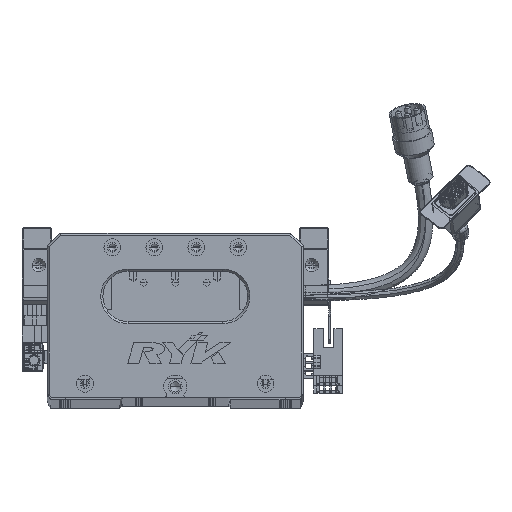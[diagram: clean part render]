
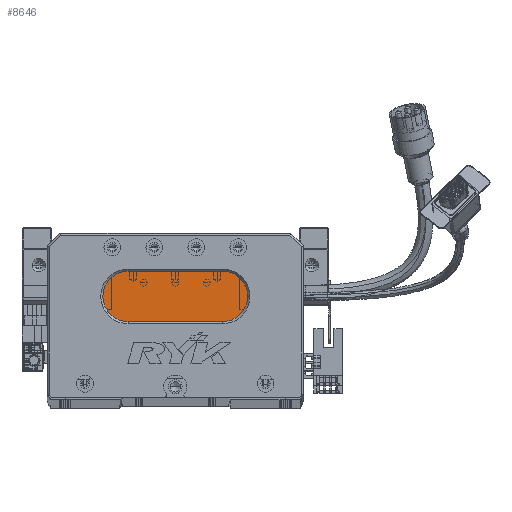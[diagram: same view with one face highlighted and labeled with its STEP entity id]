
A CAD part, top view. The second image highlights one B-rep face of the part: STEP entity #8646.
In plain terms, the highlighted planar face has unit normal (0, 0, 1) as drawn and (0, 0, -1) by its records, which use the part's own axes.
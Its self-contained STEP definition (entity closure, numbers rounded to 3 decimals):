
#1978 = LINE ( 'NONE', #117960, #13726 ) ;
#2838 = DIRECTION ( 'NONE',  ( -1., 0., 0. ) ) ;
#2872 = LINE ( 'NONE', #22475, #11663 ) ;
#5136 = CARTESIAN_POINT ( 'NONE',  ( 83.5, 48., 13. ) ) ;
#6823 = EDGE_CURVE ( 'NONE', #60017, #57173, #21220, .T. ) ;
#7455 = EDGE_CURVE ( 'NONE', #19642, #61894, #1978, .T. ) ;
#7663 = DIRECTION ( 'NONE',  ( -1., 0., 0. ) ) ;
#8646 = ADVANCED_FACE ( 'NONE', ( #57492 ), #83197, .T. ) ;
#11663 = VECTOR ( 'NONE', #13882, 1000. ) ;
#12112 = ORIENTED_EDGE ( 'NONE', *, *, #7455, .T. ) ;
#13726 = VECTOR ( 'NONE', #100706, 1000. ) ;
#13882 = DIRECTION ( 'NONE',  ( -1., 0., 0. ) ) ;
#15358 = AXIS2_PLACEMENT_3D ( 'NONE', #17716, #81586, #102028 ) ;
#15452 = AXIS2_PLACEMENT_3D ( 'NONE', #64909, #102188, #7663 ) ;
#17716 = CARTESIAN_POINT ( 'NONE',  ( 83.5, 48., 13. ) ) ;
#19642 = VERTEX_POINT ( 'NONE', #50328 ) ;
#21220 = CIRCLE ( 'NONE', #74859, 12. ) ;
#22475 = CARTESIAN_POINT ( 'NONE',  ( 83.5, 36., 13. ) ) ;
#30178 = EDGE_CURVE ( 'NONE', #32912, #60017, #2872, .T. ) ;
#32912 = VERTEX_POINT ( 'NONE', #68602 ) ;
#37847 = AXIS2_PLACEMENT_3D ( 'NONE', #5136, #117726, #88237 ) ;
#49861 = DIRECTION ( 'NONE',  ( 0., 0., -1. ) ) ;
#50271 = CARTESIAN_POINT ( 'NONE',  ( 38.5, 48., 13. ) ) ;
#50328 = CARTESIAN_POINT ( 'NONE',  ( 38.5, 60., 13. ) ) ;
#52321 = ORIENTED_EDGE ( 'NONE', *, *, #6823, .T. ) ;
#54408 = ORIENTED_EDGE ( 'NONE', *, *, #30178, .T. ) ;
#57173 = VERTEX_POINT ( 'NONE', #93125 ) ;
#57492 = FACE_OUTER_BOUND ( 'NONE', #59883, .T. ) ;
#59883 = EDGE_LOOP ( 'NONE', ( #115453, #54408, #52321, #71445, #12112 ) ) ;
#60017 = VERTEX_POINT ( 'NONE', #77869 ) ;
#60108 = CIRCLE ( 'NONE', #37847, 12. ) ;
#61894 = VERTEX_POINT ( 'NONE', #69794 ) ;
#64909 = CARTESIAN_POINT ( 'NONE',  ( 38.5, 48., 13. ) ) ;
#66460 = CIRCLE ( 'NONE', #15452, 12. ) ;
#68602 = CARTESIAN_POINT ( 'NONE',  ( 83.5, 36., 13. ) ) ;
#69794 = CARTESIAN_POINT ( 'NONE',  ( 83.5, 60., 13. ) ) ;
#71445 = ORIENTED_EDGE ( 'NONE', *, *, #94806, .T. ) ;
#74859 = AXIS2_PLACEMENT_3D ( 'NONE', #50271, #49861, #2838 ) ;
#77869 = CARTESIAN_POINT ( 'NONE',  ( 38.5, 36., 13. ) ) ;
#81586 = DIRECTION ( 'NONE',  ( 0., 0., -1. ) ) ;
#83197 = PLANE ( 'NONE',  #15358 ) ;
#88237 = DIRECTION ( 'NONE',  ( -1., 0., 0. ) ) ;
#88948 = EDGE_CURVE ( 'NONE', #61894, #32912, #60108, .T. ) ;
#93125 = CARTESIAN_POINT ( 'NONE',  ( 26.5, 48., 13. ) ) ;
#94806 = EDGE_CURVE ( 'NONE', #57173, #19642, #66460, .T. ) ;
#100706 = DIRECTION ( 'NONE',  ( 1., 0., 0. ) ) ;
#102028 = DIRECTION ( 'NONE',  ( -1., 0., 0. ) ) ;
#102188 = DIRECTION ( 'NONE',  ( 0., 0., -1. ) ) ;
#115453 = ORIENTED_EDGE ( 'NONE', *, *, #88948, .T. ) ;
#117726 = DIRECTION ( 'NONE',  ( 0., 0., -1. ) ) ;
#117960 = CARTESIAN_POINT ( 'NONE',  ( 83.5, 60., 13. ) ) ;
